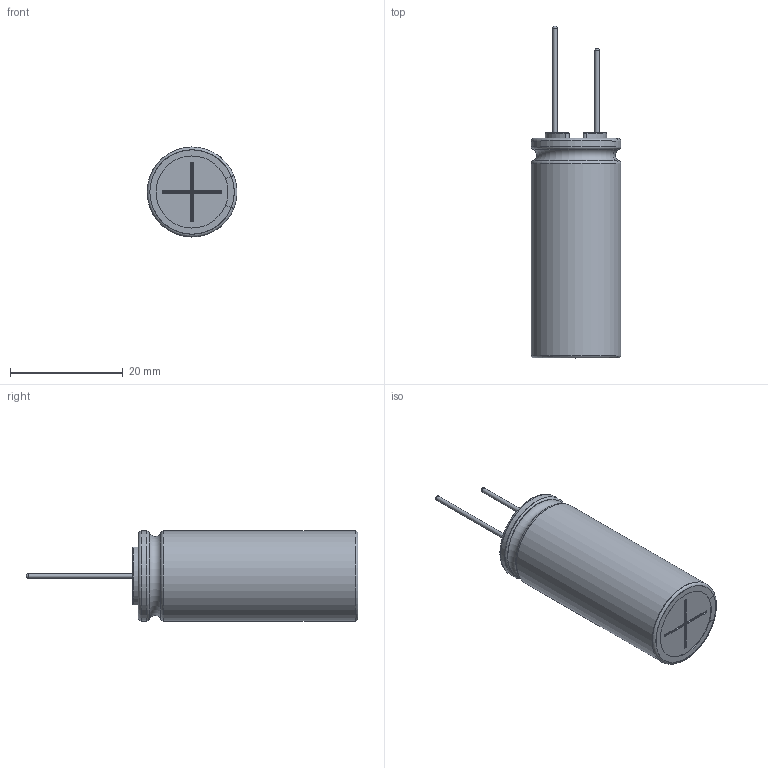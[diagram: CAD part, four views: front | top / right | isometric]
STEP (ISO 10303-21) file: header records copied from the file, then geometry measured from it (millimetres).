
FILE_DESCRIPTION(/* description */ (''),/* implementation_level */ '2;1');
FILE_NAME(/* name */ '16x40_Lead.stp',/* time_stamp */ '2017-09-05T14:49:05+09:00',/* author */ (''),/* organization */ (''),/* preprocessor_version */ 'ST-DEVELOPER v16',/* originating_system */ 'SIEMENS PLM Software NX 11.0',/* authorisation */ '');
FILE_SCHEMA (('AUTOMOTIVE_DESIGN { 1 0 10303 214 3 1 1 1 }'));
Length unit declared in the file: millimetre
Products named in the file (1): 16x40_Lead_0
Bounding box: 15.98 x 59 x 16 mm (x, y, z)
Volume: 7804.7 mm3; surface area: 6693.6 mm2
Topology: 3 solids, 3 shells, 132 faces, 328 edges, 205 vertices
Faces by surface type: cylinder 50, torus 35, plane 33, sphere 6, bspline 6, extrusion 2
Full cylindrical faces by diameter (mm): 0.8 x2, 15.8 x2
Entity records: 5217 total; most frequent: CARTESIAN_POINT 1367, DIRECTION 748, ORIENTED_EDGE 624, EDGE_CURVE 312, AXIS2_PLACEMENT_3D 311, VERTEX_POINT 200, CIRCLE 174, EDGE_LOOP 146
